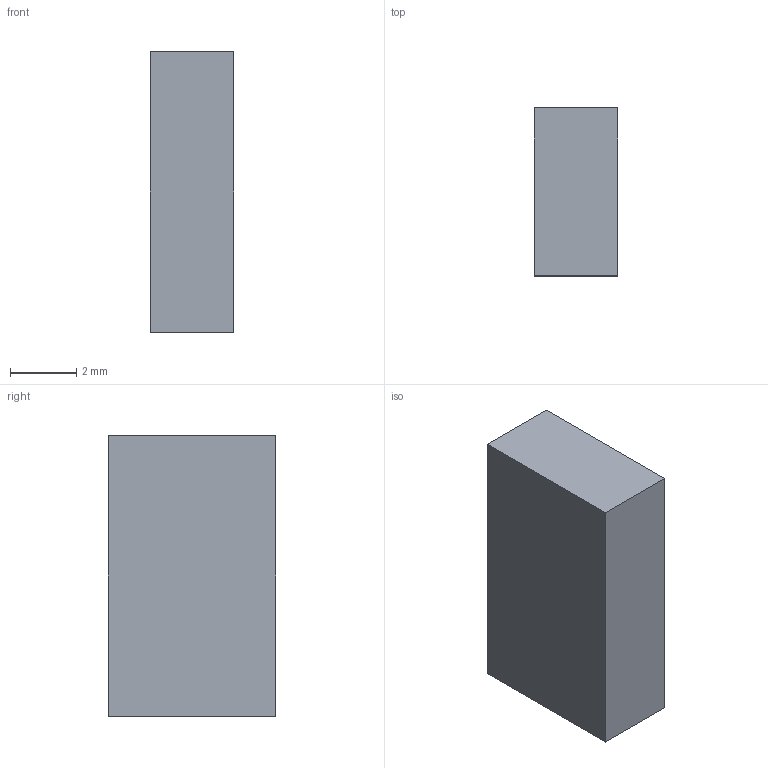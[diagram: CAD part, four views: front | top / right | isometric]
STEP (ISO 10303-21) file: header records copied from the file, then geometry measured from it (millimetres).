
FILE_DESCRIPTION(('Through-hole socket strip 1x2, 2.54 mm pitch -- body envelope 8.50 mm tall (2.54 mm socket strip, mating height (ICD-EEG-006 section 4))'),'2;1');
FILE_NAME('PinSocket_1x02_P2.54mm_Vertical','2026-09-08T00:00:00',('TI One Voice research programme'),(''),'EEG-CAR-01 step_write.py','','CC BY-SA 4.0');
FILE_SCHEMA(('AUTOMOTIVE_DESIGN { 1 0 10303 214 1 1 1 1 }'));
Length unit declared in the file: millimetre
Products named in the file (1): PinSocket_1x02_P2.54mm_Vertical
Bounding box: 2.54 x 5.08 x 8.5 mm (x, y, z)
Volume: 109.7 mm3; surface area: 155.3 mm2
Topology: 1 solids, 1 shells, 6 faces, 12 edges, 8 vertices
Faces by surface type: plane 6
Entity records: 67 total; most frequent: DIRECTION 14, CARTESIAN_POINT 9, AXIS2_PLACEMENT_3D 7, POLY_LOOP 6, FACE_OUTER_BOUND 6, PLANE 6, FACE_SURFACE 6, UNCERTAINTY_MEASURE_WITH_UNIT 1
